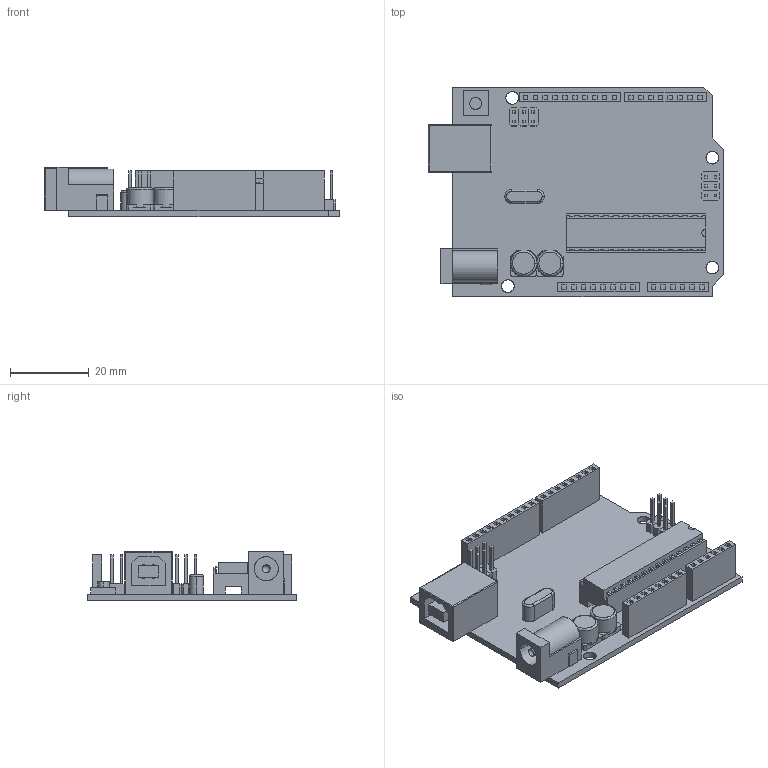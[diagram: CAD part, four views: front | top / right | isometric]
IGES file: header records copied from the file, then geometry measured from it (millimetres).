
Start section: SolidWorks IGES file using analytic representation for surfaces
Global section: file name: C:\Users\fablab-info\Desktop\Miroir cylindro-parabolique\IGS 3D\arduino.IGS; native system: SolidWorks 2017; preprocessor: SolidWorks 2017; author: fablab-info; date: 190712.155154; units: millimetre
Bounding box: 75 x 53.3 x 12.5 mm (x, y, z)
Surface area: 17787.7 mm2 (no closed solid volume)
Topology: 0 solids, 0 shells, 723 faces, 4410 edges, 4404 vertices
Faces by surface type: bspline 642, revolution 81
